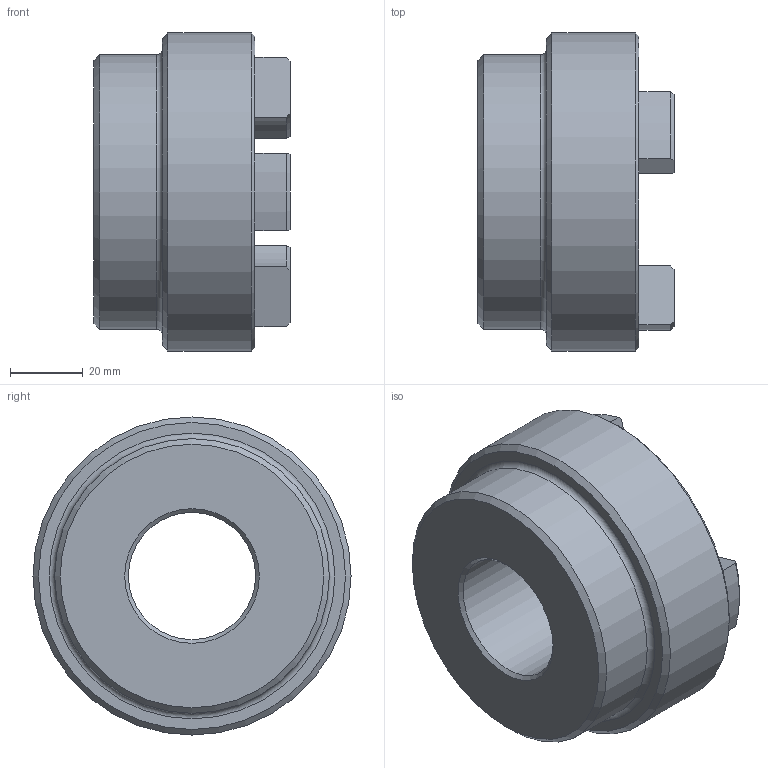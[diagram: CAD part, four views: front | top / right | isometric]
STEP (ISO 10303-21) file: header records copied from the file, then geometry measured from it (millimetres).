
FILE_DESCRIPTION (( 'STEP AP203' ), '1' );
FILE_NAME ('RC3.step', '2024-07-24T12:49:49', ( 'Adlan' ), ( '' ), 'SwSTEP 2.0', 'SolidWorks 2013', '' );
FILE_SCHEMA (( 'CONFIG_CONTROL_DESIGN' ));
Length unit declared in the file: inch
Products named in the file (1): RC3
Bounding box: 53.85 x 87.38 x 87.38 mm (x, y, z)
Volume: 164913.6 mm3; surface area: 29765.7 mm2
Topology: 1 solids, 1 shells, 60 faces, 146 edges, 90 vertices
Faces by surface type: cylinder 24, plane 13, torus 13, cone 10
Full cylindrical faces by diameter (mm): 34.938 x1, 75.438 x1, 87.376 x1
Entity records: 1841 total; most frequent: CARTESIAN_POINT 341, DIRECTION 324, ORIENTED_EDGE 274, EDGE_CURVE 137, AXIS2_PLACEMENT_3D 132, VERTEX_POINT 89, EDGE_LOOP 72, CIRCLE 71
